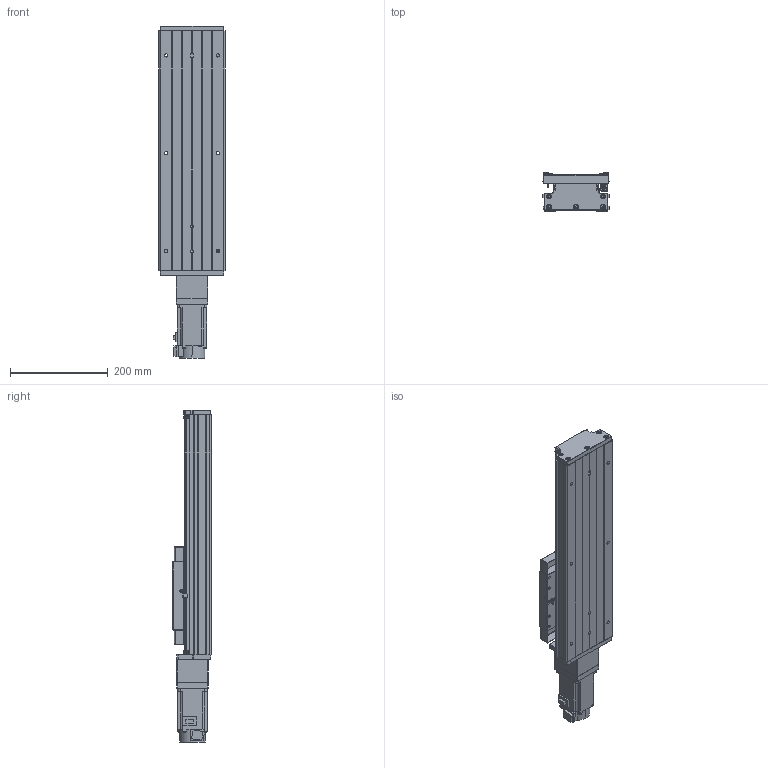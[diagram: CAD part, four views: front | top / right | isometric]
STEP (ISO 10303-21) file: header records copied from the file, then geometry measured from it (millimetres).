
FILE_DESCRIPTION (( 'STEP AP203' ), '1' );
FILE_NAME ('GTH14-250-BC-M40-C4.step', '2023-06-30T08:33:19', ( '微软用户' ), ( '微软中国' ), 'SwSTEP 2.0', 'SolidWorks 2020', '' );
FILE_SCHEMA (( 'CONFIG_CONTROL_DESIGN' ));
Length unit declared in the file: millimetre
Products named in the file (20): GTH14-001_250; CTHA60-017; CTHA86-006-1_M40; GTH14-002_GTH14-002; EE_SX911P_R; CTHA86-013; GTH14-004; CTHA60-016; CTHA86-027-1; GTH14-005; GBT 70.1-M3℅5; HG-KN43J-S100; GB1155-6X6; GBT77-2000 M3×3; GBT 70.3-M3℅8; GBT70.1 M5℅16; GTH14-031; GTH14-250-BC-M40-C4; GBT 70.2-M3¡Á5_M3¡Á6; す晦芛蹟隊 M3℅5
Assembly tree (57 placements, depth 2):
  GTH14-250-BC-M40-C4
    GTH14-001_250
    GTH14-002_GTH14-002
    GTH14-004
    GTH14-005
    GB1155-6X6  x2
    GBT70.1 M5℅16  x10
    GBT 70.2-M3¡Á5_M3¡Á6  x8
    CTHA60-017  x3
    EE_SX911P_R  x3
    CTHA60-016  x2
    GBT 70.1-M3℅5  x6
    GBT77-2000 M3×3  x6
    GTH14-031
    す晦芛蹟隊 M3℅5  x6
    CTHA86-006-1_M40
    CTHA86-013
    CTHA86-027-1
    HG-KN43J-S100
    GBT 70.3-M3℅8  x2
Bounding box: 135 x 78 x 678.7 mm (x, y, z)
Volume: 3451379 mm3; surface area: 589266.9 mm2
Topology: 60 solids, 60 shells, 2394 faces, 5709 edges, 3522 vertices
Faces by surface type: plane 1298, cylinder 632, cone 304, torus 120, sphere 20, bspline 20
Entity records: 43804 total; most frequent: CARTESIAN_POINT 9797, DIRECTION 6396, ORIENTED_EDGE 6302, EDGE_CURVE 3151, AXIS2_PLACEMENT_3D 2165, LINE 2066, VECTOR 2066, VERTEX_POINT 1990
